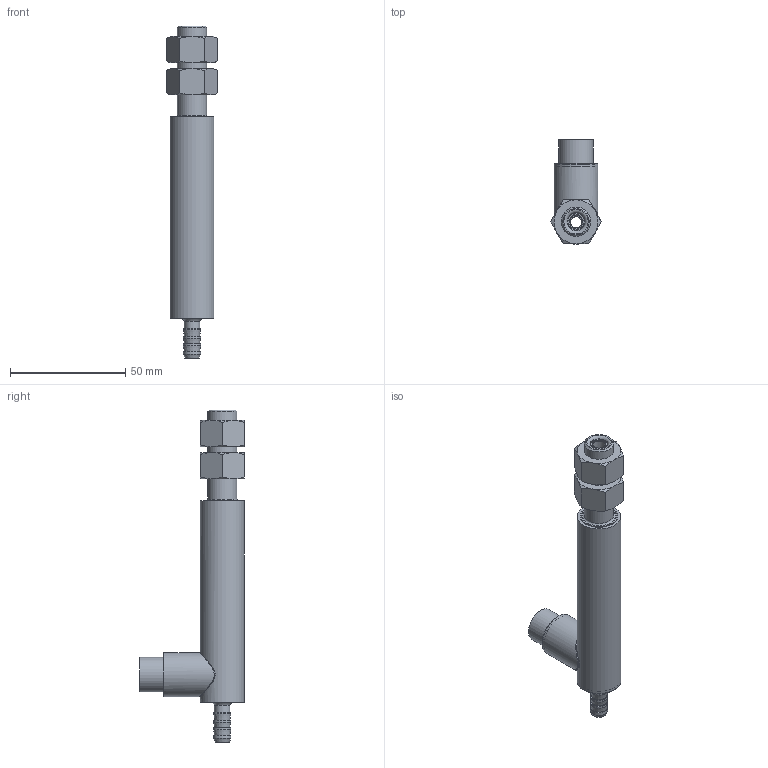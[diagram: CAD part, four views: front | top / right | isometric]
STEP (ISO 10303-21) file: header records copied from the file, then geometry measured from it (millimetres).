
FILE_DESCRIPTION(/* description */ (''),/* implementation_level */ '2;1');
FILE_NAME(/* name */ 'F:\GHRA SERIES\GHRA-750-X-XXXX\GHRA-750-E-250\GHRA-750-E-250 ASS''Y.iam.stp',/* time_stamp */ '2021-11-17T12:46:57-05:00',/* author */ ('J. Nielson'),/* organization */ (''),/* preprocessor_version */ 'ST-DEVELOPER v18.1',/* originating_system */ 'Autodesk Inventor 2022',/* authorisation */ '');
FILE_SCHEMA (('AUTOMOTIVE_DESIGN { 1 0 10303 214 3 1 1 }'));
Length unit declared in the file: inch
Products named in the file (3): GHRA-750-E-250 ASS'Y; GHR-750-E-250 HOUSING ASSEMBLY_SW; AS 2465 - 1/2  UNF
Assembly tree (3 placements, depth 2):
  GHRA-750-E-250 ASS'Y
    GHR-750-E-250 HOUSING ASSEMBLY_SW
    AS 2465 - 1/2  UNF  x2
Bounding box: 22 x 45.24 x 143.89 mm (x, y, z)
Volume: 18954.4 mm3; surface area: 22190.5 mm2
Topology: 14 solids, 14 shells, 187 faces, 381 edges, 244 vertices
Faces by surface type: plane 76, cylinder 54, cone 44, bspline 8, torus 5
Full cylindrical faces by diameter (mm): 0.762 x12, 4.762 x1, 5.334 x1, 6 x1, 6.731 x1, 7.493 x4, 7.671 x2, 7.874 x2, 11.328 x2, 12.7 x1, 13.208 x1, 14.986 x1, 15.748 x2, 16.51 x1, 17.018 x1, 17.069 x1, 17.78 x1, 18.034 x1, 18.415 x6, 19.05 x2
Entity records: 6534 total; most frequent: CARTESIAN_POINT 2726, DIRECTION 773, ORIENTED_EDGE 662, EDGE_CURVE 331, AXIS2_PLACEMENT_3D 329, VERTEX_POINT 215, EDGE_LOOP 212, FACE_OUTER_BOUND 164
